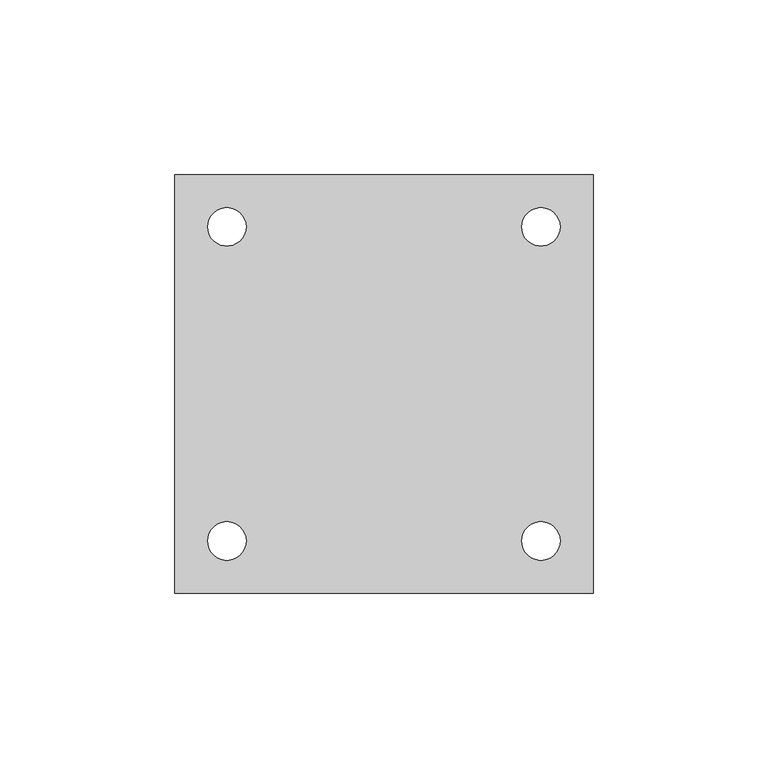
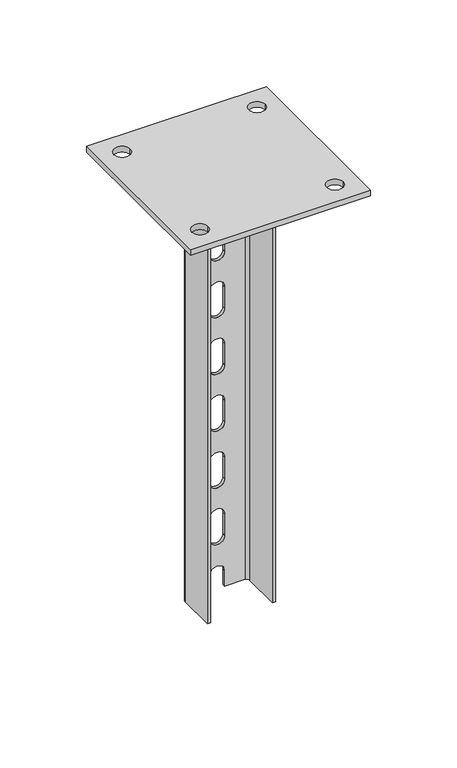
"""IFC4 building model written with IfcOpenShell, lengths in millimetres: proxy geometry, КМ Профиль_Стойка потолочная усиленная PSTU : PSTU300."""

from ifc_helpers import new_model, si_unit, point, frame, frame_2d, origin, place, context, project, spatial, polyline, circle_curve, trimmed, segment, composite_curve, outline, extrude, source, transform, mapped, element, save
from ifc_brep_helpers import plane_surface, cylinder_surface, revolved_surface, advanced_brep


def generic_models_932f35b6(model_context):
    return source(origin(), model_context, "Body", "SolidModel", [
        advanced_brep(
        [(22.5, -15.0, -4.0), (22.5, 11.0, -4.0), (18.5, 15.0, -4.0), (-18.5, 15.0, -4.0), (-22.5, 11.0, -4.0), (-22.5, -15.0, -4.0), (-20.5, -15.0, -4.0), (-20.5, 11.0, -4.0), (-18.5, 13.0, -4.0), (18.5, 13.0, -4.0), (20.5, 11.0, -4.0), (20.5, -15.0, -4.0), (22.5, 11.0, -304.0), (22.5, -15.0, -304.0), (20.5, -15.0, -304.0), (20.5, 11.0, -304.0), (18.5, 13.0, -304.0), (5.0, 13.0, -304.0), (5.0, 15.0, -304.0), (18.5, 15.0, -304.0), (-22.5, 11.0, -304.0), (-18.5, 15.0, -304.0), (-5.0, 15.0, -304.0), (-5.0, 13.0, -304.0), (-18.5, 13.0, -304.0), (-20.5, 11.0, -304.0), (-20.5, -15.0, -304.0), (-22.5, -15.0, -304.0), (5.0, 15.0, -293.0), (-5.0, 15.0, -293.0), (-5.0, 15.0, -53.0), (-5.0, 15.0, -68.0), (5.0, 15.0, -68.0), (5.0, 15.0, -53.0), (-5.0, 15.0, -93.0), (-5.0, 15.0, -108.0), (5.0, 15.0, -108.0), (5.0, 15.0, -93.0), (-5.0, 15.0, -133.0), (-5.0, 15.0, -148.0), (5.0, 15.0, -148.0), (5.0, 15.0, -133.0), (-5.0, 15.0, -173.0), (-5.0, 15.0, -188.0), (5.0, 15.0, -188.0), (5.0, 15.0, -173.0), (-5.0, 15.0, -213.0), (-5.0, 15.0, -228.0), (5.0, 15.0, -228.0), (5.0, 15.0, -213.0), (-5.0, 15.0, -253.0), (-5.0, 15.0, -268.0), (5.0, 15.0, -268.0), (5.0, 15.0, -253.0), (-5.0, 15.0, -13.0), (-5.0, 15.0, -28.0), (5.0, 15.0, -28.0), (5.0, 15.0, -13.0), (-5.0, 13.0, -293.0), (5.0, 13.0, -293.0), (-5.0, 13.0, -68.0), (-5.0, 13.0, -53.0), (5.0, 13.0, -53.0), (5.0, 13.0, -68.0), (-5.0, 13.0, -108.0), (-5.0, 13.0, -93.0), (5.0, 13.0, -93.0), (5.0, 13.0, -108.0), (-5.0, 13.0, -148.0), (-5.0, 13.0, -133.0), (5.0, 13.0, -133.0), (5.0, 13.0, -148.0), (-5.0, 13.0, -188.0), (-5.0, 13.0, -173.0), (5.0, 13.0, -173.0), (5.0, 13.0, -188.0), (-5.0, 13.0, -228.0), (-5.0, 13.0, -213.0), (5.0, 13.0, -213.0), (5.0, 13.0, -228.0), (-5.0, 13.0, -268.0), (-5.0, 13.0, -253.0), (5.0, 13.0, -253.0), (5.0, 13.0, -268.0), (-5.0, 13.0, -28.0), (-5.0, 13.0, -13.0), (5.0, 13.0, -13.0), (5.0, 13.0, -28.0)],
        [
            (0, 1),
            (1, 2, circle_curve(frame((18.5, 11.0, -4.0), z_axis=(0.0, 0.0, 1.0), x_axis=(1.0, 0.0, 0.0)), 4.0)),
            (2, 3),
            (3, 4, circle_curve(frame((-18.5, 11.0, -4.0), z_axis=(0.0, 0.0, 1.0), x_axis=(1.0, 0.0, 0.0)), 4.0)),
            (4, 5),
            (5, 6),
            (6, 7),
            (7, 8, circle_curve(frame((-18.5, 11.0, -4.0), z_axis=(0.0, 0.0, -1.0), x_axis=(1.0, 0.0, 0.0)), 2.0)),
            (8, 9),
            (9, 10, circle_curve(frame((18.5, 11.0, -4.0), z_axis=(0.0, 0.0, -1.0), x_axis=(1.0, 0.0, 0.0)), 2.0)),
            (10, 11),
            (11, 0),
            (12, 13),
            (13, 14),
            (14, 15),
            (15, 16, circle_curve(frame((18.5, 11.0, -304.0), z_axis=(0.0, 0.0, 1.0), x_axis=(1.0, 0.0, 0.0)), 2.0)),
            (16, 17),
            (17, 18),
            (18, 19),
            (19, 12, circle_curve(frame((18.5, 11.0, -304.0), z_axis=(0.0, 0.0, -1.0), x_axis=(1.0, 0.0, 0.0)), 4.0)),
            (20, 21, circle_curve(frame((-18.5, 11.0, -304.0), z_axis=(0.0, 0.0, -1.0), x_axis=(1.0, 0.0, 0.0)), 4.0)),
            (21, 22),
            (22, 23),
            (23, 24),
            (24, 25, circle_curve(frame((-18.5, 11.0, -304.0), z_axis=(0.0, 0.0, 1.0), x_axis=(1.0, 0.0, 0.0)), 2.0)),
            (25, 26),
            (26, 27),
            (27, 20),
            (0, 13),
            (12, 1),
            (19, 2),
            (18, 28),
            (28, 29, circle_curve(frame((0.0, 15.0, -293.0), z_axis=(0.0, -1.0, 0.0), x_axis=(0.0, 0.0, -1.0)), 5.0)),
            (29, 22),
            (21, 3),
            (30, 31),
            (31, 32, circle_curve(frame((0.0, 15.0, -68.0), z_axis=(0.0, -1.0, 0.0), x_axis=(0.0, 0.0, -1.0)), 5.0)),
            (32, 33),
            (33, 30, circle_curve(frame((0.0, 15.0, -53.0), z_axis=(0.0, -1.0, 0.0), x_axis=(0.0, 0.0, -1.0)), 5.0)),
            (34, 35),
            (35, 36, circle_curve(frame((0.0, 15.0, -108.0), z_axis=(0.0, -1.0, 0.0), x_axis=(0.0, 0.0, -1.0)), 5.0)),
            (36, 37),
            (37, 34, circle_curve(frame((0.0, 15.0, -93.0), z_axis=(0.0, -1.0, 0.0), x_axis=(0.0, 0.0, -1.0)), 5.0)),
            (38, 39),
            (39, 40, circle_curve(frame((0.0, 15.0, -148.0), z_axis=(0.0, -1.0, 0.0), x_axis=(0.0, 0.0, -1.0)), 5.0)),
            (40, 41),
            (41, 38, circle_curve(frame((0.0, 15.0, -133.0), z_axis=(0.0, -1.0, 0.0), x_axis=(0.0, 0.0, -1.0)), 5.0)),
            (42, 43),
            (43, 44, circle_curve(frame((0.0, 15.0, -188.0), z_axis=(0.0, -1.0, 0.0), x_axis=(0.0, 0.0, -1.0)), 5.0)),
            (44, 45),
            (45, 42, circle_curve(frame((0.0, 15.0, -173.0), z_axis=(0.0, -1.0, 0.0), x_axis=(0.0, 0.0, -1.0)), 5.0)),
            (46, 47),
            (47, 48, circle_curve(frame((0.0, 15.0, -228.0), z_axis=(0.0, -1.0, 0.0), x_axis=(0.0, 0.0, -1.0)), 5.0)),
            (48, 49),
            (49, 46, circle_curve(frame((0.0, 15.0, -213.0), z_axis=(0.0, -1.0, 0.0), x_axis=(0.0, 0.0, -1.0)), 5.0)),
            (50, 51),
            (51, 52, circle_curve(frame((0.0, 15.0, -268.0), z_axis=(0.0, -1.0, 0.0), x_axis=(0.0, 0.0, -1.0)), 5.0)),
            (52, 53),
            (53, 50, circle_curve(frame((0.0, 15.0, -253.0), z_axis=(0.0, -1.0, 0.0), x_axis=(0.0, 0.0, -1.0)), 5.0)),
            (54, 55),
            (55, 56, circle_curve(frame((0.0, 15.0, -28.0), z_axis=(0.0, -1.0, 0.0), x_axis=(0.0, 0.0, -1.0)), 5.0)),
            (56, 57),
            (57, 54, circle_curve(frame((0.0, 15.0, -13.0), z_axis=(0.0, -1.0, 0.0), x_axis=(0.0, 0.0, -1.0)), 5.0)),
            (20, 4),
            (27, 5),
            (26, 6),
            (25, 7),
            (24, 8),
            (23, 58),
            (58, 59, circle_curve(frame((0.0, 13.0, -293.0), z_axis=(0.0, 1.0, 0.0), x_axis=(0.0, 0.0, -1.0)), 5.0)),
            (59, 17),
            (16, 9),
            (60, 61),
            (61, 62, circle_curve(frame((0.0, 13.0, -53.0), z_axis=(0.0, 1.0, 0.0), x_axis=(0.0, 0.0, -1.0)), 5.0)),
            (62, 63),
            (63, 60, circle_curve(frame((0.0, 13.0, -68.0), z_axis=(0.0, 1.0, 0.0), x_axis=(0.0, 0.0, -1.0)), 5.0)),
            (64, 65),
            (65, 66, circle_curve(frame((0.0, 13.0, -93.0), z_axis=(0.0, 1.0, 0.0), x_axis=(0.0, 0.0, -1.0)), 5.0)),
            (66, 67),
            (67, 64, circle_curve(frame((0.0, 13.0, -108.0), z_axis=(0.0, 1.0, 0.0), x_axis=(0.0, 0.0, -1.0)), 5.0)),
            (68, 69),
            (69, 70, circle_curve(frame((0.0, 13.0, -133.0), z_axis=(0.0, 1.0, 0.0), x_axis=(0.0, 0.0, -1.0)), 5.0)),
            (70, 71),
            (71, 68, circle_curve(frame((0.0, 13.0, -148.0), z_axis=(0.0, 1.0, 0.0), x_axis=(0.0, 0.0, -1.0)), 5.0)),
            (72, 73),
            (73, 74, circle_curve(frame((0.0, 13.0, -173.0), z_axis=(0.0, 1.0, 0.0), x_axis=(0.0, 0.0, -1.0)), 5.0)),
            (74, 75),
            (75, 72, circle_curve(frame((0.0, 13.0, -188.0), z_axis=(0.0, 1.0, 0.0), x_axis=(0.0, 0.0, -1.0)), 5.0)),
            (76, 77),
            (77, 78, circle_curve(frame((0.0, 13.0, -213.0), z_axis=(0.0, 1.0, 0.0), x_axis=(0.0, 0.0, -1.0)), 5.0)),
            (78, 79),
            (79, 76, circle_curve(frame((0.0, 13.0, -228.0), z_axis=(0.0, 1.0, 0.0), x_axis=(0.0, 0.0, -1.0)), 5.0)),
            (80, 81),
            (81, 82, circle_curve(frame((0.0, 13.0, -253.0), z_axis=(0.0, 1.0, 0.0), x_axis=(0.0, 0.0, -1.0)), 5.0)),
            (82, 83),
            (83, 80, circle_curve(frame((0.0, 13.0, -268.0), z_axis=(0.0, 1.0, 0.0), x_axis=(0.0, 0.0, -1.0)), 5.0)),
            (84, 85),
            (85, 86, circle_curve(frame((0.0, 13.0, -13.0), z_axis=(0.0, 1.0, 0.0), x_axis=(0.0, 0.0, -1.0)), 5.0)),
            (86, 87),
            (87, 84, circle_curve(frame((0.0, 13.0, -28.0), z_axis=(0.0, 1.0, 0.0), x_axis=(0.0, 0.0, -1.0)), 5.0)),
            (15, 10),
            (14, 11),
            (30, 61),
            (60, 31),
            (33, 62),
            (32, 63),
            (34, 65),
            (64, 35),
            (37, 66),
            (36, 67),
            (38, 69),
            (68, 39),
            (41, 70),
            (40, 71),
            (42, 73),
            (72, 43),
            (45, 74),
            (44, 75),
            (46, 77),
            (76, 47),
            (49, 78),
            (48, 79),
            (50, 81),
            (80, 51),
            (53, 82),
            (52, 83),
            (29, 58),
            (28, 59),
            (54, 85),
            (84, 55),
            (57, 86),
            (56, 87),
        ],
        [
            plane_surface(frame((22.5, 11.0, -4.0), z_axis=(0.0, 0.0, 1.0), x_axis=(0.0, 1.0, 0.0))),
            plane_surface(frame((22.5, 11.0, -304.0), z_axis=(0.0, 0.0, -1.0), x_axis=(0.0, -1.0, 0.0))),
            plane_surface(frame((22.5, -15.0, -4.0), z_axis=(1.0, 0.0, 0.0), x_axis=(0.0, 0.0, -1.0))),
            cylinder_surface(frame((18.5, 11.0, -304.0), z_axis=(0.0, 0.0, 1.0), x_axis=(1.0, 0.0, 0.0)), 4.0),
            plane_surface(frame((18.5, 15.0, -4.0), z_axis=(0.0, 1.0, 0.0), x_axis=(0.0, 0.0, -1.0))),
            cylinder_surface(frame((-18.5, 11.0, -304.0), z_axis=(0.0, 0.0, 1.0), x_axis=(1.0, 0.0, 0.0)), 4.0),
            plane_surface(frame((-22.5, 11.0, -4.0), z_axis=(-1.0, 0.0, 0.0), x_axis=(0.0, 0.0, -1.0))),
            plane_surface(frame((-22.5, -15.0, -4.0), z_axis=(0.0, -1.0, 0.0), x_axis=(0.0, 0.0, -1.0))),
            plane_surface(frame((-20.5, -15.0, -4.0), z_axis=(1.0, 0.0, 0.0), x_axis=(0.0, 0.0, -1.0))),
            revolved_surface(polyline([(-16.5, 11.0, -304.0), (-16.5, 11.0, -4.0)]), (-18.5, 11.0, -304.0), (0.0, 0.0, -1.0)),
            plane_surface(frame((-18.5, 13.0, -4.0), z_axis=(0.0, -1.0, 0.0), x_axis=(0.0, 0.0, -1.0))),
            revolved_surface(polyline([(20.5, 11.0, -304.0), (20.5, 11.0, -4.0)]), (18.5, 11.0, -304.0), (0.0, 0.0, -1.0)),
            plane_surface(frame((20.5, 11.0, -4.0), z_axis=(-1.0, 0.0, 0.0), x_axis=(0.0, 0.0, -1.0))),
            plane_surface(frame((20.5, -15.0, -4.0), z_axis=(0.0, -1.0, 0.0), x_axis=(0.0, 0.0, -1.0))),
            plane_surface(frame((-5.0, 15.0, -68.0), z_axis=(1.0, 0.0, 0.0), x_axis=(0.0, -1.0, 0.0))),
            revolved_surface(polyline([(0.0, 15.0, -58.0), (0.0, 13.0, -58.0)]), (0.0, 13.0, -53.0), (0.0, 1.0, 0.0)),
            plane_surface(frame((5.0, 15.0, -53.0), z_axis=(-1.0, 0.0, 0.0), x_axis=(0.0, -1.0, 0.0))),
            revolved_surface(polyline([(0.0, 15.0, -73.0), (0.0, 13.0, -73.0)]), (0.0, 13.0, -68.0), (0.0, 1.0, 0.0)),
            plane_surface(frame((-5.0, 15.0, -108.0), z_axis=(1.0, 0.0, 0.0), x_axis=(0.0, -1.0, 0.0))),
            revolved_surface(polyline([(0.0, 15.0, -98.0), (0.0, 13.0, -98.0)]), (0.0, 13.0, -93.0), (0.0, 1.0, 0.0)),
            plane_surface(frame((5.0, 15.0, -93.0), z_axis=(-1.0, 0.0, 0.0), x_axis=(0.0, -1.0, 0.0))),
            revolved_surface(polyline([(0.0, 15.0, -113.0), (0.0, 13.0, -113.0)]), (0.0, 13.0, -108.0), (0.0, 1.0, 0.0)),
            plane_surface(frame((-5.0, 15.0, -148.0), z_axis=(1.0, 0.0, 0.0), x_axis=(0.0, -1.0, 0.0))),
            revolved_surface(polyline([(0.0, 15.0, -138.0), (0.0, 13.0, -138.0)]), (0.0, 13.0, -133.0), (0.0, 1.0, 0.0)),
            plane_surface(frame((5.0, 15.0, -133.0), z_axis=(-1.0, 0.0, 0.0), x_axis=(0.0, -1.0, 0.0))),
            revolved_surface(polyline([(0.0, 15.0, -153.0), (0.0, 13.0, -153.0)]), (0.0, 13.0, -148.0), (0.0, 1.0, 0.0)),
            plane_surface(frame((-5.0, 15.0, -188.0), z_axis=(1.0, 0.0, 0.0), x_axis=(0.0, -1.0, 0.0))),
            revolved_surface(polyline([(0.0, 15.0, -178.0), (0.0, 13.0, -178.0)]), (0.0, 13.0, -173.0), (0.0, 1.0, 0.0)),
            plane_surface(frame((5.0, 15.0, -173.0), z_axis=(-1.0, 0.0, 0.0), x_axis=(0.0, -1.0, 0.0))),
            revolved_surface(polyline([(0.0, 15.0, -193.0), (0.0, 13.0, -193.0)]), (0.0, 13.0, -188.0), (0.0, 1.0, 0.0)),
            plane_surface(frame((-5.0, 15.0, -228.0), z_axis=(1.0, 0.0, 0.0), x_axis=(0.0, -1.0, 0.0))),
            revolved_surface(polyline([(0.0, 15.0, -218.0), (0.0, 13.0, -218.0)]), (0.0, 13.0, -213.0), (0.0, 1.0, 0.0)),
            plane_surface(frame((5.0, 15.0, -213.0), z_axis=(-1.0, 0.0, 0.0), x_axis=(0.0, -1.0, 0.0))),
            revolved_surface(polyline([(0.0, 15.0, -233.0), (0.0, 13.0, -233.0)]), (0.0, 13.0, -228.0), (0.0, 1.0, 0.0)),
            plane_surface(frame((-5.0, 15.0, -268.0), z_axis=(1.0, 0.0, 0.0), x_axis=(0.0, -1.0, 0.0))),
            revolved_surface(polyline([(0.0, 15.0, -258.0), (0.0, 13.0, -258.0)]), (0.0, 13.0, -253.0), (0.0, 1.0, 0.0)),
            plane_surface(frame((5.0, 15.0, -253.0), z_axis=(-1.0, 0.0, 0.0), x_axis=(0.0, -1.0, 0.0))),
            revolved_surface(polyline([(0.0, 15.0, -273.0), (0.0, 13.0, -273.0)]), (0.0, 13.0, -268.0), (0.0, 1.0, 0.0)),
            plane_surface(frame((-5.0, 15.0, -308.0), z_axis=(1.0, 0.0, 0.0), x_axis=(0.0, -1.0, 0.0))),
            revolved_surface(polyline([(0.0, 15.0, -298.0), (0.0, 13.0, -298.0)]), (0.0, 13.0, -293.0), (0.0, 1.0, 0.0)),
            plane_surface(frame((5.0, 15.0, -293.0), z_axis=(-1.0, 0.0, 0.0), x_axis=(0.0, -1.0, 0.0))),
            plane_surface(frame((-5.0, 15.0, -28.0), z_axis=(1.0, 0.0, 0.0), x_axis=(0.0, -1.0, 0.0))),
            revolved_surface(polyline([(0.0, 15.0, -18.0), (0.0, 13.0, -18.0)]), (0.0, 13.0, -13.0), (0.0, 1.0, 0.0)),
            plane_surface(frame((5.0, 15.0, -13.0), z_axis=(-1.0, 0.0, 0.0), x_axis=(0.0, -1.0, 0.0))),
            revolved_surface(polyline([(0.0, 15.0, -33.0), (0.0, 13.0, -33.0)]), (0.0, 13.0, -28.0), (0.0, 1.0, 0.0)),
        ],
        [
            (0, [[1, 2, 3, 4, 5, 6, 7, 8, 9, 10, 11, 12]]),
            (1, [[13, 14, 15, 16, 17, 18, 19, 20]]),
            (1, [[21, 22, 23, 24, 25, 26, 27, 28]]),
            (2, [[-1, 29, -13, 30]]),
            (3, [[-2, -30, -20, 31]]),
            (4, [[-3, -31, -19, 32, 33, 34, -22, 35], [36, 37, 38, 39], [40, 41, 42, 43], [44, 45, 46, 47], [48, 49, 50, 51], [52, 53, 54, 55], [56, 57, 58, 59], [60, 61, 62, 63]]),
            (5, [[-4, -35, -21, 64]]),
            (6, [[-5, -64, -28, 65]]),
            (7, [[-6, -65, -27, 66]]),
            (8, [[-7, -66, -26, 67]]),
            (9, [[-8, -67, -25, 68]]),
            (10, [[-9, -68, -24, 69, 70, 71, -17, 72], [73, 74, 75, 76], [77, 78, 79, 80], [81, 82, 83, 84], [85, 86, 87, 88], [89, 90, 91, 92], [93, 94, 95, 96], [97, 98, 99, 100]]),
            (11, [[-10, -72, -16, 101]]),
            (12, [[-11, -101, -15, 102]]),
            (13, [[-12, -102, -14, -29]]),
            (14, [[103, -73, 104, -36]]),
            (15, [[-103, -39, 105, -74]]),
            (16, [[-105, -38, 106, -75]]),
            (17, [[-104, -76, -106, -37]]),
            (18, [[107, -77, 108, -40]]),
            (19, [[-107, -43, 109, -78]]),
            (20, [[-109, -42, 110, -79]]),
            (21, [[-108, -80, -110, -41]]),
            (22, [[111, -81, 112, -44]]),
            (23, [[-111, -47, 113, -82]]),
            (24, [[-113, -46, 114, -83]]),
            (25, [[-112, -84, -114, -45]]),
            (26, [[115, -85, 116, -48]]),
            (27, [[-115, -51, 117, -86]]),
            (28, [[-117, -50, 118, -87]]),
            (29, [[-116, -88, -118, -49]]),
            (30, [[119, -89, 120, -52]]),
            (31, [[-119, -55, 121, -90]]),
            (32, [[-121, -54, 122, -91]]),
            (33, [[-120, -92, -122, -53]]),
            (34, [[123, -93, 124, -56]]),
            (35, [[-123, -59, 125, -94]]),
            (36, [[-125, -58, 126, -95]]),
            (37, [[-124, -96, -126, -57]]),
            (38, [[127, -69, -23, -34]]),
            (39, [[-127, -33, 128, -70]]),
            (40, [[-128, -32, -18, -71]]),
            (41, [[129, -97, 130, -60]]),
            (42, [[-129, -63, 131, -98]]),
            (43, [[-131, -62, 132, -99]]),
            (44, [[-130, -100, -132, -61]]),
        ],
    ),
        extrude(outline(polyline([(-60.0, 60.0), (60.0, 60.0), (60.0, -60.0), (-60.0, -60.0), (-60.0, 60.0)]), holes=[composite_curve([segment(trimmed(circle_curve(frame_2d((-45.0, 45.0)), 5.5), [point((-50.5, 45.0))], [point((-39.5, 45.0))], True, "CARTESIAN"), True, "CONTINUOUS"), segment(trimmed(circle_curve(frame_2d((-45.0, 45.0)), 5.5), [point((-39.5, 45.0))], [point((-50.5, 45.0))], True, "CARTESIAN"), True, "CONTINUOUS")], self_intersect=False), composite_curve([segment(trimmed(circle_curve(frame_2d((45.0, 45.0)), 5.5), [point((39.5, 45.0))], [point((50.5, 45.0))], True, "CARTESIAN"), True, "CONTINUOUS"), segment(trimmed(circle_curve(frame_2d((45.0, 45.0)), 5.5), [point((50.5, 45.0))], [point((39.5, 45.0))], True, "CARTESIAN"), True, "CONTINUOUS")], self_intersect=False), composite_curve([segment(trimmed(circle_curve(frame_2d((45.0, -45.0)), 5.5), [point((39.5, -45.0))], [point((50.5, -45.0))], True, "CARTESIAN"), True, "CONTINUOUS"), segment(trimmed(circle_curve(frame_2d((45.0, -45.0)), 5.5), [point((50.5, -45.0))], [point((39.5, -45.0))], True, "CARTESIAN"), True, "CONTINUOUS")], self_intersect=False), composite_curve([segment(trimmed(circle_curve(frame_2d((-45.0, -45.0)), 5.5), [point((-50.5, -45.0))], [point((-39.5, -45.0))], True, "CARTESIAN"), True, "CONTINUOUS"), segment(trimmed(circle_curve(frame_2d((-45.0, -45.0)), 5.5), [point((-39.5, -45.0))], [point((-50.5, -45.0))], True, "CARTESIAN"), True, "CONTINUOUS")], self_intersect=False)]), frame((0.0, 0.0, -4.0), z_axis=(0.0, 0.0, 1.0), x_axis=(1.0, 0.0, 0.0)), (0.0, 0.0, 1.0), 4.0),
    ])


if __name__ == "__main__":
    model = new_model("IFC4")
    model_context = context("Model", 3, world=origin())
    ifc_project = project(units=[si_unit("LENGTHUNIT", "METRE", prefix="MILLI")], contexts=[model_context])
    site = spatial("IfcSite", under=ifc_project)
    building = spatial("IfcBuilding", under=site)
    placement = place(None, origin())
    generic_models_shape = generic_models_932f35b6(model_context)
    element("IfcBuildingElementProxy", 1, Name="КМ Профиль_Стойка потолочная усиленная PSTU : PSTU300", ObjectType="КМ Профиль_Стойка потолочная усиленная PSTU : PSTU300", at=placement, inside=building, context=model_context, shape_type="MappedRepresentation", body=[
        mapped(generic_models_shape, transform((0.0, 0.0, 0.0), x_axis=(1.0, 0.0, 0.0), y_axis=(0.0, 1.0, 0.0), z_axis=(0.0, 0.0, 1.0))),
    ])
    save(model, "model.ifc")
